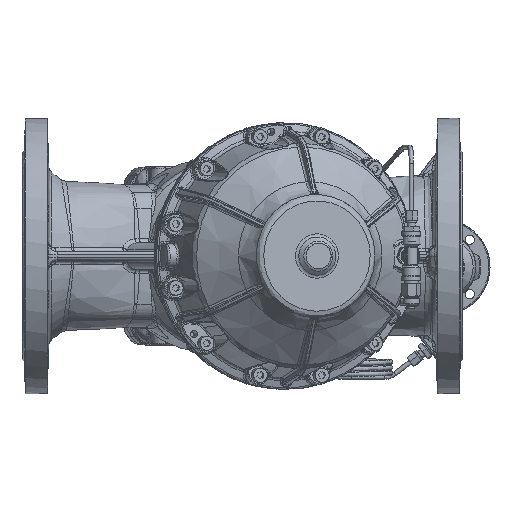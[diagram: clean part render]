
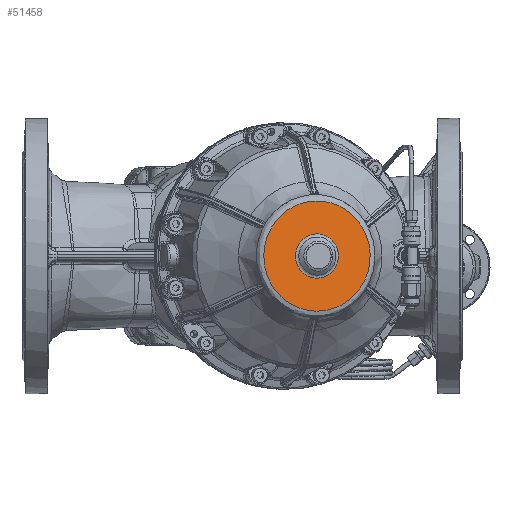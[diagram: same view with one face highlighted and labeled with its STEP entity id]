
A CAD part, front view. The second image highlights one B-rep face of the part: STEP entity #51458.
In plain terms, the highlighted planar face has unit normal (0.259, -0.966, 0).
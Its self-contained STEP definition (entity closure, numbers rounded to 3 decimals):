
#1825 =( BOUNDED_CURVE ( )  B_SPLINE_CURVE ( 3, ( #137864, #120319, #155458, #50680, #173031, #68292, #190611 ),
 .UNSPECIFIED., .T., .F. ) 
 B_SPLINE_CURVE_WITH_KNOTS ( ( 4, 3, 4 ),
 ( 0., 0.5, 1. ),
 .UNSPECIFIED. ) 
 CURVE ( )  GEOMETRIC_REPRESENTATION_ITEM ( )  RATIONAL_B_SPLINE_CURVE ( ( 1., 0.333, 0.333, 1., 0.333, 0.333, 1. ) ) 
 REPRESENTATION_ITEM ( '' )  );
#6047 = CARTESIAN_POINT ( 'NONE',  ( 186.553, -273.019, 22.414 ) ) ;
#23751 = CARTESIAN_POINT ( 'NONE',  ( 68.252, -304.718, -48.296 ) ) ;
#31044 = CARTESIAN_POINT ( 'NONE',  ( 75.712, -302.719, -19.47 ) ) ;
#35782 = EDGE_CURVE ( 'NONE', #74313, #74313, #1825, .T. ) ;
#50680 = CARTESIAN_POINT ( 'NONE',  ( 85.791, -300.019, 19.47 ) ) ;
#51458 = ADVANCED_FACE ( 'NONE', ( #198442, #199080 ), #76519, .F. ) ;
#54492 = AXIS2_PLACEMENT_3D ( 'NONE', #110188, #109423, #198861 ) ;
#68292 = CARTESIAN_POINT ( 'NONE',  ( 38.099, -312.798, -9.036 ) ) ;
#70905 = CARTESIAN_POINT ( 'NONE',  ( 68.252, -304.718, -48.296 ) ) ;
#74313 = VERTEX_POINT ( 'NONE', #31044 ) ;
#76519 = PLANE ( 'NONE',  #54492 ) ;
#83821 =( BOUNDED_CURVE ( )  B_SPLINE_CURVE ( 3, ( #93602, #162392, #215956, #111216, #6047, #128776, #23751 ),
 .UNSPECIFIED., .T., .F. ) 
 B_SPLINE_CURVE_WITH_KNOTS ( ( 4, 3, 4 ),
 ( 0., 0.5, 1. ),
 .UNSPECIFIED. ) 
 CURVE ( )  GEOMETRIC_REPRESENTATION_ITEM ( )  RATIONAL_B_SPLINE_CURVE ( ( 1., 0.333, 0.333, 1., 0.333, 0.333, 1. ) ) 
 REPRESENTATION_ITEM ( '' )  );
#93602 = CARTESIAN_POINT ( 'NONE',  ( 68.252, -304.718, -48.296 ) ) ;
#100894 = EDGE_CURVE ( 'NONE', #120618, #120618, #83821, .T. ) ;
#109423 = DIRECTION ( 'NONE',  ( -0.259, 0.966, 0. ) ) ;
#110188 = CARTESIAN_POINT ( 'NONE',  ( 127.402, -288.869, -12.941 ) ) ;
#111216 = CARTESIAN_POINT ( 'NONE',  ( 93.252, -298.019, 48.296 ) ) ;
#120319 = CARTESIAN_POINT ( 'NONE',  ( 113.326, -292.641, -29.904 ) ) ;
#120618 = VERTEX_POINT ( 'NONE', #70905 ) ;
#128776 = CARTESIAN_POINT ( 'NONE',  ( 161.553, -279.718, -74.178 ) ) ;
#137864 = CARTESIAN_POINT ( 'NONE',  ( 75.712, -302.719, -19.47 ) ) ;
#149391 = EDGE_LOOP ( 'NONE', ( #158482 ) ) ;
#155458 = CARTESIAN_POINT ( 'NONE',  ( 123.404, -289.94, 9.036 ) ) ;
#158482 = ORIENTED_EDGE ( 'NONE', *, *, #100894, .F. ) ;
#161353 = EDGE_LOOP ( 'NONE', ( #176614 ) ) ;
#162392 = CARTESIAN_POINT ( 'NONE',  ( -25.05, -329.718, -22.414 ) ) ;
#173031 = CARTESIAN_POINT ( 'NONE',  ( 48.178, -310.097, 29.904 ) ) ;
#176614 = ORIENTED_EDGE ( 'NONE', *, *, #35782, .F. ) ;
#190611 = CARTESIAN_POINT ( 'NONE',  ( 75.712, -302.719, -19.47 ) ) ;
#198442 = FACE_OUTER_BOUND ( 'NONE', #149391, .T. ) ;
#198861 = DIRECTION ( 'NONE',  ( -0.966, -0.259, 0. ) ) ;
#199080 = FACE_BOUND ( 'NONE', #161353, .T. ) ;
#215956 = CARTESIAN_POINT ( 'NONE',  ( -0.05, -323.019, 74.178 ) ) ;
